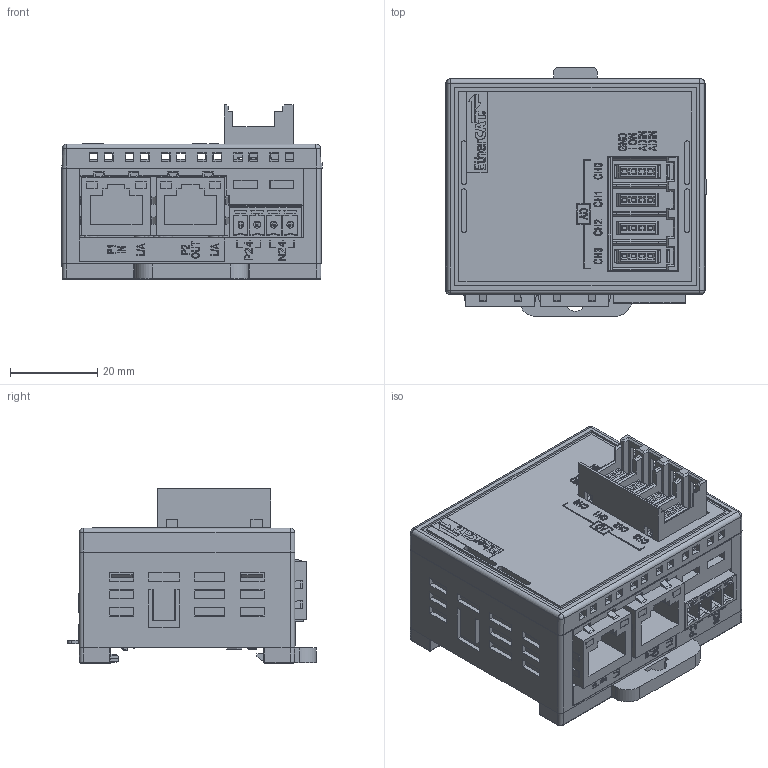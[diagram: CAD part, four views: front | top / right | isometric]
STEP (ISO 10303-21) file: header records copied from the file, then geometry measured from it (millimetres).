
FILE_DESCRIPTION((''),'2;1');
FILE_NAME('ECCEA40','2026-05-11T15:17:06',('gijyu181'),(''),'CREO PARAMETRIC BY PTC INC, 2018050','CREO PARAMETRIC BY PTC INC, 2018050','');
FILE_SCHEMA(('CONFIG_CONTROL_DESIGN','SHAPE_APPEARANCE_LAYERS_GROUPS'));
Products named in the file (1): ECCEA40
Bounding box: 59.75 x 57.15 x 40 mm (x, y, z)
Volume: 68868.9 mm3; surface area: 38432.7 mm2
Topology: 1 solids, 17 shells, 6421 faces, 18065 edges, 11941 vertices
Faces by surface type: plane 4881, cylinder 749, extrusion 677, sphere 44, torus 26, bspline 24, cone 20
Entity records: 260460 total; most frequent: CARTESIAN_POINT 45322, ORIENTED_EDGE 36094, DIRECTION 30009, EDGE_CURVE 18051, VECTOR 15463, LINE 14786, VERTEX_POINT 11941, PRESENTATION_STYLE_ASSIGNMENT 9938
